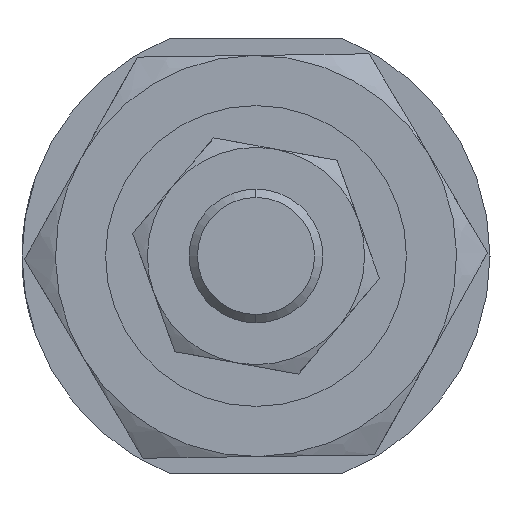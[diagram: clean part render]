
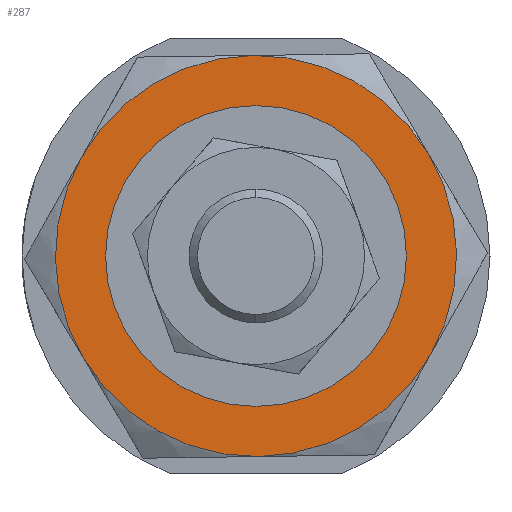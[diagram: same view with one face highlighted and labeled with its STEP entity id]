
A CAD part, left-side view. The second image highlights one B-rep face of the part: STEP entity #287.
In plain terms, the highlighted planar face has unit normal (-1, 0, 0) as drawn and (0, 0, -1) by its records, which use the part's own axes.
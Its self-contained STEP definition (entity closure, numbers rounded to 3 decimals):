
#24 = CARTESIAN_POINT ( 'NONE',  ( -8.25, 0., -4. ) ) ;
#35 = EDGE_CURVE ( 'NONE', #1266, #2792, #1876, .T. ) ;
#48 = CARTESIAN_POINT ( 'NONE',  ( 0., 0., -4. ) ) ;
#111 = EDGE_CURVE ( 'NONE', #2526, #925, #576, .T. ) ;
#115 = DIRECTION ( 'NONE',  ( 1., 0., 0. ) ) ;
#203 = VERTEX_POINT ( 'NONE', #2867 ) ;
#214 = DIRECTION ( 'NONE',  ( 0., 0., 1. ) ) ;
#248 = ORIENTED_EDGE ( 'NONE', *, *, #1467, .T. ) ;
#285 = CARTESIAN_POINT ( 'NONE',  ( 6., 10.392, -4. ) ) ;
#287 = ADVANCED_FACE ( 'NONE', ( #2633, #2457 ), #901, .F. ) ;
#397 = CIRCLE ( 'NONE', #1204, 12. ) ;
#451 = EDGE_CURVE ( 'NONE', #203, #2432, #1272, .T. ) ;
#507 = AXIS2_PLACEMENT_3D ( 'NONE', #2605, #2658, #1102 ) ;
#525 = AXIS2_PLACEMENT_3D ( 'NONE', #2752, #2442, #2280 ) ;
#576 = CIRCLE ( 'NONE', #1609, 12. ) ;
#676 = ORIENTED_EDGE ( 'NONE', *, *, #2784, .F. ) ;
#786 = AXIS2_PLACEMENT_3D ( 'NONE', #2861, #2674, #2964 ) ;
#820 = CARTESIAN_POINT ( 'NONE',  ( 0., 0., -4. ) ) ;
#893 = ORIENTED_EDGE ( 'NONE', *, *, #1171, .F. ) ;
#901 = PLANE ( 'NONE',  #2993 ) ;
#925 = VERTEX_POINT ( 'NONE', #2417 ) ;
#958 = DIRECTION ( 'NONE',  ( 1., 0., 0. ) ) ;
#1019 = CARTESIAN_POINT ( 'NONE',  ( 0., 0., -4. ) ) ;
#1041 = ORIENTED_EDGE ( 'NONE', *, *, #2192, .F. ) ;
#1102 = DIRECTION ( 'NONE',  ( 1., 0., 0. ) ) ;
#1171 = EDGE_CURVE ( 'NONE', #2701, #1778, #1393, .T. ) ;
#1193 = CARTESIAN_POINT ( 'NONE',  ( -6., -10.392, -4. ) ) ;
#1204 = AXIS2_PLACEMENT_3D ( 'NONE', #820, #2686, #2352 ) ;
#1231 = DIRECTION ( 'NONE',  ( 1., 0., 0. ) ) ;
#1266 = VERTEX_POINT ( 'NONE', #2348 ) ;
#1272 = CIRCLE ( 'NONE', #2785, 8.25 ) ;
#1275 = EDGE_CURVE ( 'NONE', #2792, #2526, #397, .T. ) ;
#1392 = ORIENTED_EDGE ( 'NONE', *, *, #1275, .F. ) ;
#1393 = CIRCLE ( 'NONE', #786, 12. ) ;
#1431 = AXIS2_PLACEMENT_3D ( 'NONE', #1767, #2781, #3192 ) ;
#1467 = EDGE_CURVE ( 'NONE', #2432, #203, #2106, .T. ) ;
#1508 = CARTESIAN_POINT ( 'NONE',  ( 0., 0., -4. ) ) ;
#1524 = CARTESIAN_POINT ( 'NONE',  ( 0., 0., -4. ) ) ;
#1609 = AXIS2_PLACEMENT_3D ( 'NONE', #1508, #2618, #1231 ) ;
#1694 = EDGE_LOOP ( 'NONE', ( #2506, #1041, #893, #676, #1824, #1392 ) ) ;
#1767 = CARTESIAN_POINT ( 'NONE',  ( 0., 0., -4. ) ) ;
#1778 = VERTEX_POINT ( 'NONE', #1938 ) ;
#1824 = ORIENTED_EDGE ( 'NONE', *, *, #111, .F. ) ;
#1876 = CIRCLE ( 'NONE', #525, 12. ) ;
#1938 = CARTESIAN_POINT ( 'NONE',  ( 6., -10.392, -4. ) ) ;
#2106 = CIRCLE ( 'NONE', #507, 8.25 ) ;
#2192 = EDGE_CURVE ( 'NONE', #1778, #1266, #2825, .T. ) ;
#2209 = AXIS2_PLACEMENT_3D ( 'NONE', #48, #214, #3070 ) ;
#2280 = DIRECTION ( 'NONE',  ( 1., 0., 0. ) ) ;
#2290 = CIRCLE ( 'NONE', #1431, 12. ) ;
#2348 = CARTESIAN_POINT ( 'NONE',  ( 12., 0., -4. ) ) ;
#2352 = DIRECTION ( 'NONE',  ( 1., 0., 0. ) ) ;
#2417 = CARTESIAN_POINT ( 'NONE',  ( -12., 0., -4. ) ) ;
#2432 = VERTEX_POINT ( 'NONE', #24 ) ;
#2442 = DIRECTION ( 'NONE',  ( 0., 0., 1. ) ) ;
#2457 = FACE_OUTER_BOUND ( 'NONE', #1694, .T. ) ;
#2494 = EDGE_LOOP ( 'NONE', ( #3013, #248 ) ) ;
#2506 = ORIENTED_EDGE ( 'NONE', *, *, #35, .F. ) ;
#2526 = VERTEX_POINT ( 'NONE', #2743 ) ;
#2605 = CARTESIAN_POINT ( 'NONE',  ( 0., 0., -4. ) ) ;
#2618 = DIRECTION ( 'NONE',  ( 0., 0., 1. ) ) ;
#2633 = FACE_BOUND ( 'NONE', #2494, .T. ) ;
#2637 = DIRECTION ( 'NONE',  ( 0., 0., 1. ) ) ;
#2658 = DIRECTION ( 'NONE',  ( 0., 0., 1. ) ) ;
#2674 = DIRECTION ( 'NONE',  ( 0., 0., 1. ) ) ;
#2686 = DIRECTION ( 'NONE',  ( 0., 0., 1. ) ) ;
#2701 = VERTEX_POINT ( 'NONE', #1193 ) ;
#2743 = CARTESIAN_POINT ( 'NONE',  ( -6., 10.392, -4. ) ) ;
#2752 = CARTESIAN_POINT ( 'NONE',  ( 0., 0., -4. ) ) ;
#2767 = DIRECTION ( 'NONE',  ( 0., 0., 1. ) ) ;
#2781 = DIRECTION ( 'NONE',  ( 0., 0., 1. ) ) ;
#2784 = EDGE_CURVE ( 'NONE', #925, #2701, #2290, .T. ) ;
#2785 = AXIS2_PLACEMENT_3D ( 'NONE', #1524, #2637, #958 ) ;
#2792 = VERTEX_POINT ( 'NONE', #285 ) ;
#2825 = CIRCLE ( 'NONE', #2209, 12. ) ;
#2861 = CARTESIAN_POINT ( 'NONE',  ( 0., 0., -4. ) ) ;
#2867 = CARTESIAN_POINT ( 'NONE',  ( 8.25, 0., -4. ) ) ;
#2964 = DIRECTION ( 'NONE',  ( 1., 0., 0. ) ) ;
#2993 = AXIS2_PLACEMENT_3D ( 'NONE', #1019, #2767, #115 ) ;
#3013 = ORIENTED_EDGE ( 'NONE', *, *, #451, .T. ) ;
#3070 = DIRECTION ( 'NONE',  ( 1., 0., 0. ) ) ;
#3192 = DIRECTION ( 'NONE',  ( 1., 0., 0. ) ) ;
